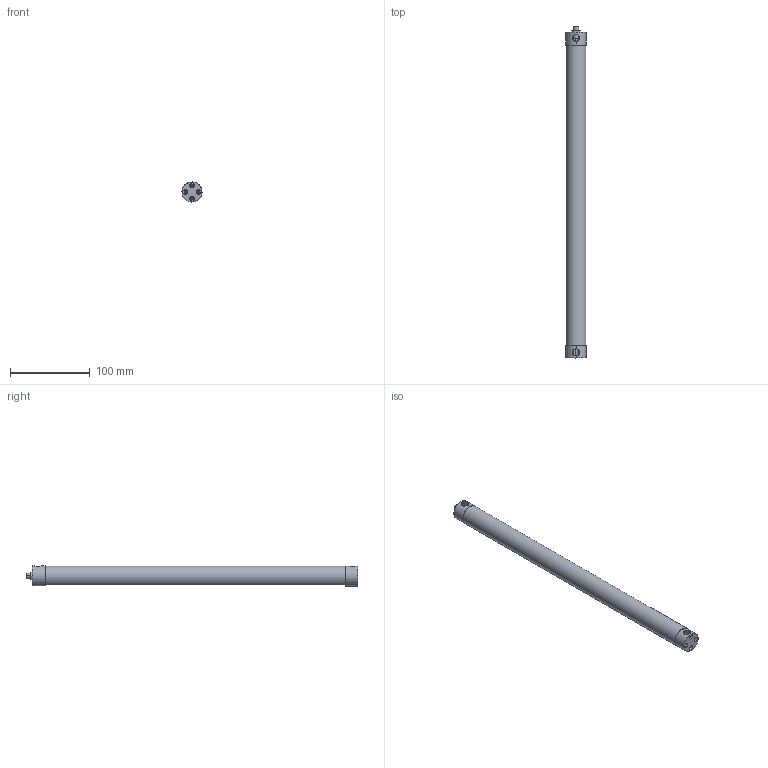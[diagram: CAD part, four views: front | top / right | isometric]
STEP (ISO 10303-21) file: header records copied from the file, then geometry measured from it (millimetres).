
FILE_DESCRIPTION (( 'STEP AP214' ), '1' );
FILE_NAME ('Slimbar 15 LED.STEP', '2011-02-09T16:55:29', ( 'JRLEDS' ), ( '' ), 'SwSTEP 2.0', 'SolidWorks 2010', '' );
FILE_SCHEMA (( 'AUTOMOTIVE_DESIGN' ));
Length unit declared in the file: millimetre
Products named in the file (7): Profilé tube 375mm; Embout non percé; Diffusant 375mm; Connecteur M8; Circuit 5 XPE 10mm; Slimbar 15 LED
Assembly tree (8 placements, depth 2):
  Slimbar 15 LED
    Profilé tube 375mm
    Circuit 5 XPE 10mm  x3
    Embout non percé
    Diffusant 375mm
    Embout non percé
    Connecteur M8
Bounding box: 25.01 x 415 x 25.02 mm (x, y, z)
Volume: 107147.9 mm3; surface area: 95947.6 mm2
Topology: 8 solids, 8 shells, 249 faces, 615 edges, 408 vertices
Faces by surface type: plane 132, cylinder 104, cone 13
Entity records: 6686 total; most frequent: CARTESIAN_POINT 1543, DIRECTION 989, ORIENTED_EDGE 942, EDGE_CURVE 471, AXIS2_PLACEMENT_3D 368, VERTEX_POINT 312, VECTOR 253, LINE 253
